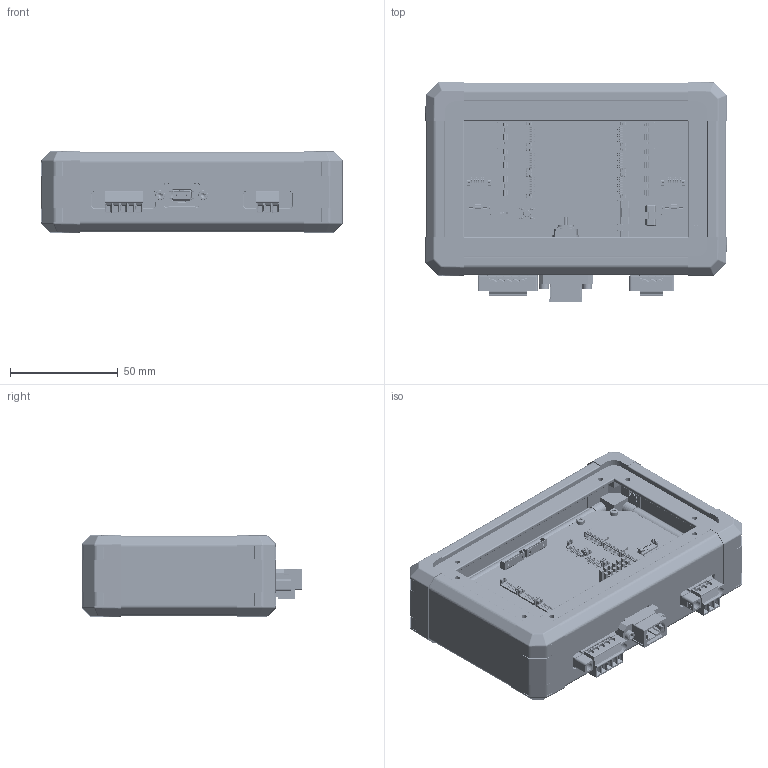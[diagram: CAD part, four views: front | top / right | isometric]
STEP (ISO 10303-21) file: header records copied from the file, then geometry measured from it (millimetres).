
FILE_DESCRIPTION(/* description */ (''),/* implementation_level */ '2;1');
FILE_NAME(/* name */ 'XS-8P-X2G2-FF-X8G3-MTP.stp',/* time_stamp */ '2022-03-14T15:14:27+01:00',/* author */ (''),/* organization */ (''),/* preprocessor_version */ 'ST-DEVELOPER v16.7',/* originating_system */ 'SIEMENS PLM Software NX 1907',/* authorisation */ '');
FILE_SCHEMA (('AUTOMOTIVE_DESIGN { 1 0 10303 214 3 1 1 1 }'));
Products named in the file (26): PCUO-MTP; PCUO-FF; FC4149BB-PANEL-SIDE; FC4-CORNER-CAP; FC4-H35; FC499BB-PANEL-SIDE; FC4149BB-PANEL-MTP; OPA-S-1-F; SROB-M2.5X8-IMBUS-STNLS; TP-5X5X5-TGA3500; TP-5X5X3-TGA3500; TP-5X5X2-TGA2200; XS-8P-X2G2-FF-X8G3-FF-PCA-LW; CONN-3P-1847068; CONN-5P-1847084; TP-10X10X1-TGA6200; SROB-M2X4-IMBUS-STNLS; SROB-M2X3-IMBUS-STNLS; SROB-M2X12-CSK-IMB-STNLS; MECH-XS-14-9-MIDPLATE-MTP; MECH-MD-EMI-GSKT-4X13-T1; SROB-M3X12-IMB-BTN-STNLS; MECH-XS-14-9-BASEPLATE; PCUO-G3-08-015_XS-8P-MTP; MECH-FC4149BB-MOD-8P-MTP; XS-8P-X2G2-FF-X8G3-MTP-LW
Assembly tree (80 placements, depth 3):
  XS-8P-X2G2-FF-X8G3-MTP-LW
    MECH-FC4149BB-MOD-8P-MTP
      FC4149BB-PANEL-MTP
      FC499BB-PANEL-SIDE  x2
      FC4-H35  x4
      FC4-CORNER-CAP  x8
      FC4149BB-PANEL-SIDE
    MECH-XS-14-9-BASEPLATE
    SROB-M3X12-IMB-BTN-STNLS  x16
    MECH-MD-EMI-GSKT-4X13-T1  x8
    MECH-XS-14-9-MIDPLATE-MTP
    SROB-M2X12-CSK-IMB-STNLS  x4
    SROB-M2X3-IMBUS-STNLS  x4
    SROB-M2X4-IMBUS-STNLS  x6
    TP-10X10X1-TGA6200  x4
    CONN-5P-1847084
    CONN-3P-1847068
    XS-8P-X2G2-FF-X8G3-FF-PCA-LW
    TP-5X5X2-TGA2200  x5
    TP-5X5X3-TGA3500  x2
    TP-5X5X5-TGA3500  x2
    SROB-M2.5X8-IMBUS-STNLS  x2
    OPA-S-1-F
    PCUO-G3-08-015_XS-8P-MTP
      PCUO-FF  x2
      PCUO-MTP
Bounding box: 140 x 102.1 x 37.9 mm (x, y, z)
Volume: 148484.5 mm3; surface area: 169039.2 mm2
Topology: 188 solids, 188 shells, 35418 faces, 101450 edges, 66554 vertices
Faces by surface type: plane 25118, cylinder 9129, cone 387, bspline 361, torus 239, sphere 176, extrusion 4, revolution 4
Full cylindrical faces by diameter (mm): 0.15 x10, 0.5 x18, 0.75 x20, 0.8 x20, 0.89 x20, 0.9 x20, 1 x8, 1.131 x4, 1.138 x4, 1.16 x20, 1.2 x2, 1.284 x4, 1.3 x18, 1.374 x4, 1.6 x14, 1.8 x18, 2 x24, 2.1 x12, 2.459 x8, 2.5 x28, 2.613 x4, 2.615 x4, 3 x16, 3.2 x16, 3.3 x4, 3.6 x6, 3.8 x14, 4.1 x4, 4.5 x2, 5 x4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
Entity records: 1258890 total; most frequent: CARTESIAN_POINT 196407, ORIENTED_EDGE 185082, DIRECTION 173597, EDGE_CURVE 92541, VECTOR 74093, LINE 74089, VERTEX_POINT 61045, AXIS2_PLACEMENT_3D 49750
